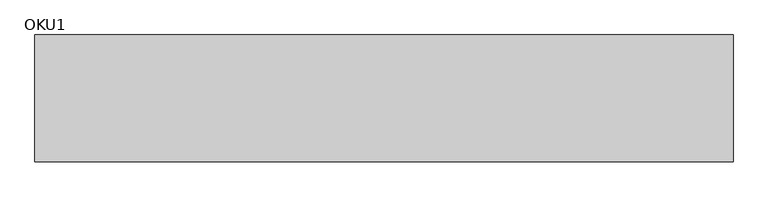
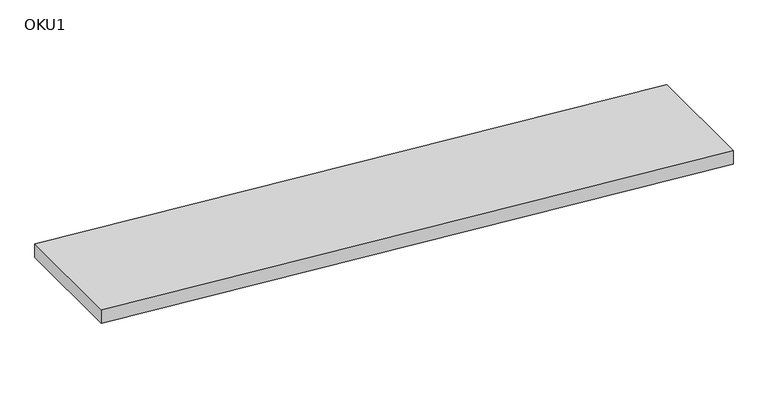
"""IFC4 building model written with IfcOpenShell, lengths in millimetres: ramp geometry, OKU1."""

import ifcopenshell
import ifcopenshell.guid

model = None  # the IFC model being written
_history = None  # IfcOwnerHistory: only IFC2X3 demands one
_inside = {}  # id of a spatial element -> (the spatial element, [elements in it])
_under = {}  # id of a project, library or spatial element -> (it, [spatial elements below it])
_declared = {}  # id of a project -> (the project, [libraries it declares])
_typed = {}  # id of a type object -> (the type object, [elements of that type])
_made_of = {}  # id of a material, layer set ... -> (it, [elements and type objects made of it])


def new_model(schema):
    """Start an empty IFC model of exactly this schema.

    Asked for "IFC4X3", IfcOpenShell would pick the latest addendum, in which some entities
    have other attributes; the version numbers below select the first issue.
    IFC2X3 requires an IfcOwnerHistory on every rooted entity: one is made here for all.
    """
    global model, _history
    if schema == "IFC4X3":
        model = ifcopenshell.file(schema_version=(4, 3, 0, 0))
    else:
        model = ifcopenshell.file(schema=schema)
    _inside.clear()
    _under.clear()
    _declared.clear()
    _typed.clear()
    _made_of.clear()
    _history = None
    if model.schema == "IFC2X3":
        org = make("IfcOrganization", Name="unknown")
        user = make(
            "IfcPersonAndOrganization",
            ThePerson=make("IfcPerson", FamilyName="unknown"),
            TheOrganization=org,
        )
        app = make(
            "IfcApplication",
            ApplicationDeveloper=org,
            Version="unknown",
            ApplicationFullName="unknown",
            ApplicationIdentifier="unknown",
        )
        _history = make(
            "IfcOwnerHistory",
            OwningUser=user,
            OwningApplication=app,
            ChangeAction="ADDED",
            CreationDate=0,
        )
    return model


def make(cls, **values):
    """One entity of the class cls with the attributes given. An attribute that is None is left unset."""
    return model.create_entity(
        cls, **{name: value for name, value in values.items() if value is not None}
    )


def rooted(cls, **values):
    """An entity with a GlobalId (a new one), such as an element, a storey or a relation."""
    return make(cls, GlobalId=ifcopenshell.guid.new(), OwnerHistory=_history, **values)


def si_unit(unit_type, name, prefix=None):
    """IfcSIUnit, for example si_unit("LENGTHUNIT", "METRE", prefix="MILLI")."""
    return make("IfcSIUnit", UnitType=unit_type, Prefix=prefix, Name=name)


def assignment(units):
    """IfcUnitAssignment: the units of a project."""
    return None if units is None else make("IfcUnitAssignment", Units=units)


def point(xyz):
    """IfcCartesianPoint."""
    return None if xyz is None else make("IfcCartesianPoint", Coordinates=xyz)


def direction(xyz):
    """IfcDirection."""
    return None if xyz is None else make("IfcDirection", DirectionRatios=xyz)


def frame(location, z_axis=None, x_axis=None):
    """IfcAxis2Placement3D, a coordinate frame: its origin and axes. An axis left out is left unset."""
    return make(
        "IfcAxis2Placement3D",
        Location=point(location),
        Axis=direction(z_axis),
        RefDirection=direction(x_axis),
    )


def origin():
    """The frame at (0, 0, 0) with its axes left unset."""
    return frame((0.0, 0.0, 0.0))


def place(relative_to, where):
    """IfcLocalPlacement: puts the frame where relative to a parent placement (None: the world)."""
    return make(
        "IfcLocalPlacement", PlacementRelTo=relative_to, RelativePlacement=where
    )


def context(
    kind, dimensions, precision=None, world=None, true_north=None, identifier=None
):
    """IfcGeometricRepresentationContext, for example the 3D "Model" context."""
    return make(
        "IfcGeometricRepresentationContext",
        ContextIdentifier=identifier,
        ContextType=kind,
        CoordinateSpaceDimension=dimensions,
        Precision=precision,
        WorldCoordinateSystem=world,
        TrueNorth=true_north,
    )


def project(units=None, contexts=None):
    """IfcProject with its units and contexts."""
    return rooted(
        "IfcProject",
        Name="project",
        RepresentationContexts=contexts,
        UnitsInContext=assignment(units),
    )


def spatial(cls, under=None, at=None, **own):
    """A site, building, storey or space (cls), placed at a placement, below another one or the project."""
    s = rooted(cls, ObjectPlacement=at, **own)
    if under is not None:
        _under.setdefault(under.id(), (under, []))[1].append(s)
    return s


def polyline(points):
    """IfcPolyline through the points."""
    return make("IfcPolyline", Points=[point(p) for p in points])


def outline(outer, holes=None, kind="AREA"):
    """IfcArbitraryClosedProfileDef: a profile drawn as a closed curve; with holes, ...WithVoids."""
    if holes is None:
        return make("IfcArbitraryClosedProfileDef", ProfileType=kind, OuterCurve=outer)
    return make(
        "IfcArbitraryProfileDefWithVoids",
        ProfileType=kind,
        OuterCurve=outer,
        InnerCurves=holes,
    )


def extrude(swept, where, along, depth):
    """IfcExtrudedAreaSolid: the profile swept, set in the frame where, extruded along a direction by depth."""
    return make(
        "IfcExtrudedAreaSolid",
        SweptArea=swept,
        Position=where,
        ExtrudedDirection=direction(along),
        Depth=depth,
    )


def shape(context_of_items, identifier, shape_type, items):
    """IfcShapeRepresentation: the items that make up one representation, for example the "Body"."""
    return make(
        "IfcShapeRepresentation",
        ContextOfItems=context_of_items,
        RepresentationIdentifier=identifier,
        RepresentationType=shape_type,
        Items=items,
    )


def source(mapping_origin, context_of_items, identifier, shape_type, items):
    """IfcRepresentationMap: a shape defined once, which mapped items show again and again."""
    return make(
        "IfcRepresentationMap",
        MappingOrigin=mapping_origin,
        MappedRepresentation=shape(context_of_items, identifier, shape_type, items),
    )


def transform(
    local_origin,
    x_axis=None,
    y_axis=None,
    z_axis=None,
    scale=None,
    scale2=None,
    scale3=None,
    uniform=True,
):
    """IfcCartesianTransformationOperator3D, or its non-uniform kind. x_axis, y_axis, z_axis: its Axis1, 2, 3."""
    if uniform:
        return make(
            "IfcCartesianTransformationOperator3D",
            Axis1=direction(x_axis),
            Axis2=direction(y_axis),
            LocalOrigin=point(local_origin),
            Scale=scale,
            Axis3=direction(z_axis),
        )
    return make(
        "IfcCartesianTransformationOperator3DnonUniform",
        Axis1=direction(x_axis),
        Axis2=direction(y_axis),
        LocalOrigin=point(local_origin),
        Scale=scale,
        Axis3=direction(z_axis),
        Scale2=scale2,
        Scale3=scale3,
    )


def mapped(mapping_source, mapping_target):
    """IfcMappedItem: shows the shape of a source again, moved by a transform."""
    return make(
        "IfcMappedItem", MappingSource=mapping_source, MappingTarget=mapping_target
    )


def made_of(thing, what):
    """Note that an element or type object is made of a material, layer set ...; save() writes the relation."""
    if what is not None:
        _made_of.setdefault(what.id(), (what, []))[1].append(thing)
    return thing


def element(
    cls,
    number,
    at=None,
    inside=None,
    cuts=None,
    type_object=None,
    material=None,
    context=None,
    identifier="Body",
    shape_type=None,
    held_by="IfcProductDefinitionShape",
    body=None,
    shapes=None,
    **own,
):
    """One element of the class cls, such as IfcWall. Its Tag is "e" and its number.

    at: its placement. inside: the storey or other place that contains it. cuts: it is an
    opening in that element (IfcRelVoidsElement). A single representation is given by context,
    identifier, shape_type and body (its items); several are given by shapes. held_by: the class
    of the entity that holds the representations. save() writes the other relations.
    """
    e = rooted(cls, Tag="e%d" % number, ObjectPlacement=at, **own)
    if body is not None:
        shapes = [shape(context, identifier, shape_type, body)]
    if shapes is not None:
        e.Representation = make(held_by, Representations=shapes)
    if inside is not None:
        _inside.setdefault(inside.id(), (inside, []))[1].append(e)
    if cuts is not None:
        rooted(
            "IfcRelVoidsElement", RelatingBuildingElement=cuts, RelatedOpeningElement=e
        )
    if type_object is not None:
        _typed.setdefault(type_object.id(), (type_object, []))[1].append(e)
    return made_of(e, material)


def aggregate(whole, parts):
    """IfcRelAggregates: a whole, such as a stair, and the parts it consists of."""
    return rooted("IfcRelAggregates", RelatingObject=whole, RelatedObjects=parts)


def save(model, path):
    """Write the relations noted so far, then the file.

    IfcRelAggregates (storeys below a building ...), IfcRelContainedInSpatialStructure (elements
    in a storey), IfcRelDefinesByType, IfcRelAssociatesMaterial and IfcRelDeclares: one each for
    every whole, place, type object, material and project.
    """
    for whole, parts in _under.values():
        aggregate(whole, parts)
    for where, things in _inside.values():
        rooted(
            "IfcRelContainedInSpatialStructure",
            RelatedElements=things,
            RelatingStructure=where,
        )
    for kind, things in _typed.values():
        rooted("IfcRelDefinesByType", RelatedObjects=things, RelatingType=kind)
    for what, things in _made_of.values():
        rooted("IfcRelAssociatesMaterial", RelatedObjects=things, RelatingMaterial=what)
    for by, libraries in _declared.values():
        rooted("IfcRelDeclares", RelatingContext=by, RelatedDefinitions=libraries)
    model.write(path)


def oku1_d2eb89d1(model_context):
    return source(origin(), model_context, "Body", "SweptSolid", [
        extrude(outline(polyline([(-300.0, -78318.4618294), (250.0, -84918.4618294), (99.4800678, -84918.4618294), (-450.5199322, -78318.4618294), (-300.0, -78318.4618294)])), frame((0.0, -13090.679374, 0.0), z_axis=(0.0, 1.0, 0.0), x_axis=(0.0, 0.0, 1.0)), (0.0, 0.0, 1.0), 1200.0),
    ])


if __name__ == "__main__":
    model = new_model("IFC4")
    model_context = context("Model", 3, world=origin())
    ifc_project = project(units=[si_unit("LENGTHUNIT", "METRE", prefix="MILLI")], contexts=[model_context])
    site = spatial("IfcSite", under=ifc_project)
    building = spatial("IfcBuilding", under=site)
    placement = place(None, origin())
    oku1_shape = oku1_d2eb89d1(model_context)
    element("IfcRamp", 1, ObjectType="OKU1", at=placement, inside=building, context=model_context, shape_type="MappedRepresentation", body=[
        mapped(oku1_shape, transform((0.0, 0.0, 0.0), x_axis=(1.0, 0.0, 0.0), y_axis=(0.0, 1.0, 0.0), z_axis=(0.0, 0.0, 1.0))),
    ])
    save(model, "model.ifc")
